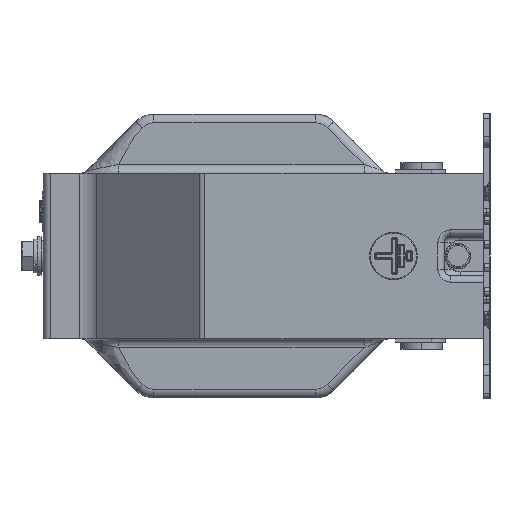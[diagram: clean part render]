
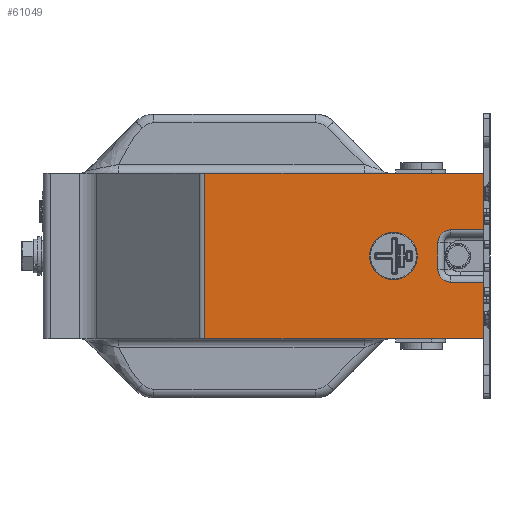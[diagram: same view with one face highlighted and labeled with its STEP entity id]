
A CAD part, left-side view. The second image highlights one B-rep face of the part: STEP entity #61049.
In plain terms, the highlighted planar face has unit normal (-1, 0, 0).
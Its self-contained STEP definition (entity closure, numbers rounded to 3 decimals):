
#926 = DIRECTION ( 'NONE',  ( 0., 0., -1. ) ) ;
#1896 = ORIENTED_EDGE ( 'NONE', *, *, #32431, .T. ) ;
#2658 = CARTESIAN_POINT ( 'NONE',  ( -188.677, 27.164, -51.832 ) ) ;
#3426 = VECTOR ( 'NONE', #54180, 1000. ) ;
#3688 = ORIENTED_EDGE ( 'NONE', *, *, #55842, .F. ) ;
#5450 = EDGE_CURVE ( 'NONE', #37153, #68586, #69390, .T. ) ;
#6072 = VECTOR ( 'NONE', #61367, 1000. ) ;
#6757 = CIRCLE ( 'NONE', #34195, 14.88 ) ;
#6787 = CARTESIAN_POINT ( 'NONE',  ( -188.677, -126.712, 8.432 ) ) ;
#7323 = VERTEX_POINT ( 'NONE', #61974 ) ;
#7557 = FACE_BOUND ( 'NONE', #41245, .T. ) ;
#7890 = ORIENTED_EDGE ( 'NONE', *, *, #35086, .T. ) ;
#8873 = AXIS2_PLACEMENT_3D ( 'NONE', #36019, #41172, #35546 ) ;
#9471 = DIRECTION ( 'NONE',  ( 0., 1., 0. ) ) ;
#12334 = ORIENTED_EDGE ( 'NONE', *, *, #5450, .F. ) ;
#12341 = DIRECTION ( 'NONE',  ( 1., 0., 0. ) ) ;
#13568 = FACE_OUTER_BOUND ( 'NONE', #19102, .T. ) ;
#14783 = CARTESIAN_POINT ( 'NONE',  ( -188.677, -147.544, -51.832 ) ) ;
#15129 = DIRECTION ( 'NONE',  ( 0., 0., 1. ) ) ;
#16472 = DIRECTION ( 'NONE',  ( -1., 0., 0. ) ) ;
#17873 = EDGE_CURVE ( 'NONE', #55101, #21547, #35437, .T. ) ;
#18195 = LINE ( 'NONE', #49080, #3426 ) ;
#19081 = DIRECTION ( 'NONE',  ( 1., 0., 0. ) ) ;
#19102 = EDGE_LOOP ( 'NONE', ( #51909, #60322, #66598, #19458, #7890, #3688, #39653, #1896, #12334, #58554 ) ) ;
#19458 = ORIENTED_EDGE ( 'NONE', *, *, #44948, .F. ) ;
#20026 = VERTEX_POINT ( 'NONE', #64060 ) ;
#21409 = CARTESIAN_POINT ( 'NONE',  ( -188.677, -147.44, 99.2 ) ) ;
#21547 = VERTEX_POINT ( 'NONE', #52077 ) ;
#21572 = CARTESIAN_POINT ( 'NONE',  ( -188.677, -91., 0. ) ) ;
#22930 = VERTEX_POINT ( 'NONE', #45141 ) ;
#24058 = LINE ( 'NONE', #50455, #50183 ) ;
#24284 = VERTEX_POINT ( 'NONE', #49688 ) ;
#25029 = CARTESIAN_POINT ( 'NONE',  ( -188.677, -126.712, -16.368 ) ) ;
#26577 = LINE ( 'NONE', #63077, #63972 ) ;
#27178 = DIRECTION ( 'NONE',  ( 0., 0., -1. ) ) ;
#28563 = CARTESIAN_POINT ( 'NONE',  ( -188.677, -147.44, -51.832 ) ) ;
#29070 = DIRECTION ( 'NONE',  ( 0., 0., 1. ) ) ;
#31821 = AXIS2_PLACEMENT_3D ( 'NONE', #21572, #32038, #27178 ) ;
#32038 = DIRECTION ( 'NONE',  ( 1., 0., 0. ) ) ;
#32431 = EDGE_CURVE ( 'NONE', #24284, #68586, #39560, .T. ) ;
#33543 = DIRECTION ( 'NONE',  ( 0., 0., -1. ) ) ;
#33795 = AXIS2_PLACEMENT_3D ( 'NONE', #6787, #12341, #926 ) ;
#34085 = EDGE_CURVE ( 'NONE', #68363, #54938, #54618, .T. ) ;
#34195 = AXIS2_PLACEMENT_3D ( 'NONE', #52365, #19081, #45853 ) ;
#35086 = EDGE_CURVE ( 'NONE', #22930, #7323, #43605, .T. ) ;
#35437 = CIRCLE ( 'NONE', #8873, 7.936 ) ;
#35546 = DIRECTION ( 'NONE',  ( 0., 0., -1. ) ) ;
#36008 = VECTOR ( 'NONE', #69105, 1000. ) ;
#36019 = CARTESIAN_POINT ( 'NONE',  ( -188.677, -126.712, -8.432 ) ) ;
#37153 = VERTEX_POINT ( 'NONE', #2658 ) ;
#38133 = DIRECTION ( 'NONE',  ( 0., 0., -1. ) ) ;
#38618 = CARTESIAN_POINT ( 'NONE',  ( -188.677, -147.544, -51.832 ) ) ;
#39560 = LINE ( 'NONE', #68883, #36008 ) ;
#39653 = ORIENTED_EDGE ( 'NONE', *, *, #67925, .T. ) ;
#40802 = ORIENTED_EDGE ( 'NONE', *, *, #49167, .T. ) ;
#41172 = DIRECTION ( 'NONE',  ( 1., 0., 0. ) ) ;
#41245 = EDGE_LOOP ( 'NONE', ( #40802, #68607 ) ) ;
#42342 = LINE ( 'NONE', #14783, #57904 ) ;
#43605 = CIRCLE ( 'NONE', #33795, 7.936 ) ;
#44793 = CARTESIAN_POINT ( 'NONE',  ( -188.677, -147.44, 16.368 ) ) ;
#44948 = EDGE_CURVE ( 'NONE', #22930, #21547, #55406, .T. ) ;
#45141 = CARTESIAN_POINT ( 'NONE',  ( -188.677, -118.776, 8.432 ) ) ;
#45853 = DIRECTION ( 'NONE',  ( 0., 0., -1. ) ) ;
#45999 = CARTESIAN_POINT ( 'NONE',  ( -188.677, -91., -14.88 ) ) ;
#47789 = VECTOR ( 'NONE', #15129, 1000. ) ;
#49080 = CARTESIAN_POINT ( 'NONE',  ( -188.677, -147.544, 16.368 ) ) ;
#49167 = EDGE_CURVE ( 'NONE', #54938, #68363, #6757, .T. ) ;
#49688 = CARTESIAN_POINT ( 'NONE',  ( -188.677, -147.44, 51.832 ) ) ;
#50183 = VECTOR ( 'NONE', #61684, 1000. ) ;
#50455 = CARTESIAN_POINT ( 'NONE',  ( -188.677, -147.544, -16.368 ) ) ;
#50542 = CARTESIAN_POINT ( 'NONE',  ( -188.677, -118.776, -12.4 ) ) ;
#51909 = ORIENTED_EDGE ( 'NONE', *, *, #61258, .T. ) ;
#52077 = CARTESIAN_POINT ( 'NONE',  ( -188.677, -118.776, -8.432 ) ) ;
#52365 = CARTESIAN_POINT ( 'NONE',  ( -188.677, -91., 0. ) ) ;
#54180 = DIRECTION ( 'NONE',  ( 0., 1., 0. ) ) ;
#54618 = CIRCLE ( 'NONE', #31821, 14.88 ) ;
#54938 = VERTEX_POINT ( 'NONE', #45999 ) ;
#55101 = VERTEX_POINT ( 'NONE', #25029 ) ;
#55406 = LINE ( 'NONE', #50542, #68475 ) ;
#55842 = EDGE_CURVE ( 'NONE', #57453, #7323, #18195, .T. ) ;
#56865 = VERTEX_POINT ( 'NONE', #28563 ) ;
#57313 = LINE ( 'NONE', #21409, #47789 ) ;
#57453 = VERTEX_POINT ( 'NONE', #44793 ) ;
#57797 = CARTESIAN_POINT ( 'NONE',  ( -188.677, 27.164, 51.832 ) ) ;
#57904 = VECTOR ( 'NONE', #9471, 1000. ) ;
#58554 = ORIENTED_EDGE ( 'NONE', *, *, #60959, .F. ) ;
#60322 = ORIENTED_EDGE ( 'NONE', *, *, #60455, .F. ) ;
#60455 = EDGE_CURVE ( 'NONE', #55101, #20026, #24058, .T. ) ;
#60959 = EDGE_CURVE ( 'NONE', #56865, #37153, #42342, .T. ) ;
#61049 = ADVANCED_FACE ( 'NONE', ( #7557, #13568 ), #71650, .T. ) ;
#61258 = EDGE_CURVE ( 'NONE', #56865, #20026, #26577, .T. ) ;
#61367 = DIRECTION ( 'NONE',  ( 0., 0., 1. ) ) ;
#61684 = DIRECTION ( 'NONE',  ( 0., -1., 0. ) ) ;
#61974 = CARTESIAN_POINT ( 'NONE',  ( -188.677, -126.712, 16.368 ) ) ;
#63077 = CARTESIAN_POINT ( 'NONE',  ( -188.677, -147.44, 99.2 ) ) ;
#63165 = CARTESIAN_POINT ( 'NONE',  ( -188.677, -91., 14.88 ) ) ;
#63972 = VECTOR ( 'NONE', #29070, 1000. ) ;
#64060 = CARTESIAN_POINT ( 'NONE',  ( -188.677, -147.44, -16.368 ) ) ;
#66598 = ORIENTED_EDGE ( 'NONE', *, *, #17873, .T. ) ;
#67925 = EDGE_CURVE ( 'NONE', #57453, #24284, #57313, .T. ) ;
#68363 = VERTEX_POINT ( 'NONE', #63165 ) ;
#68475 = VECTOR ( 'NONE', #33543, 1000. ) ;
#68586 = VERTEX_POINT ( 'NONE', #57797 ) ;
#68607 = ORIENTED_EDGE ( 'NONE', *, *, #34085, .T. ) ;
#68883 = CARTESIAN_POINT ( 'NONE',  ( -188.677, -147.544, 51.832 ) ) ;
#69105 = DIRECTION ( 'NONE',  ( 0., 1., 0. ) ) ;
#69390 = LINE ( 'NONE', #71574, #6072 ) ;
#71006 = AXIS2_PLACEMENT_3D ( 'NONE', #38618, #16472, #38133 ) ;
#71574 = CARTESIAN_POINT ( 'NONE',  ( -188.677, 27.164, 51.832 ) ) ;
#71650 = PLANE ( 'NONE',  #71006 ) ;
